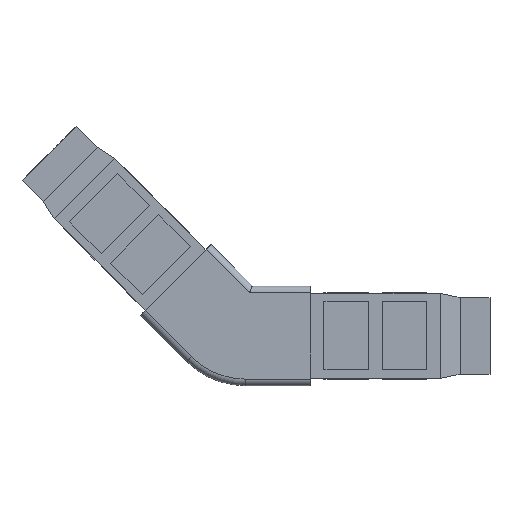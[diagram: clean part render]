
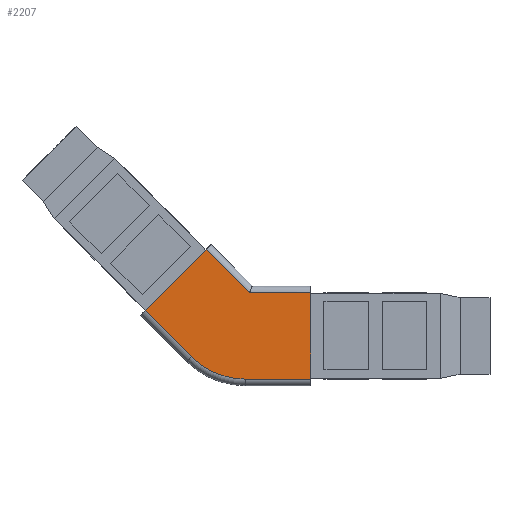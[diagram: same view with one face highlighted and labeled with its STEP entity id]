
A CAD part, left-side view. The second image highlights one B-rep face of the part: STEP entity #2207.
In plain terms, the highlighted planar face has unit normal (-1, 0, 0).
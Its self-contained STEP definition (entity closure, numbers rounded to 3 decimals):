
#23 = AXIS2_PLACEMENT_3D ( 'NONE', #171, #2352, #474 ) ;
#90 = DIRECTION ( 'NONE',  ( 0., -0.707, -0.707 ) ) ;
#171 = CARTESIAN_POINT ( 'NONE',  ( -15., 4.645, 10. ) ) ;
#179 = CARTESIAN_POINT ( 'NONE',  ( -15., 20.908, -6.263 ) ) ;
#198 = ORIENTED_EDGE ( 'NONE', *, *, #3047, .T. ) ;
#268 = VERTEX_POINT ( 'NONE', #1867 ) ;
#350 = CARTESIAN_POINT ( 'NONE',  ( -15., -15., -13. ) ) ;
#474 = DIRECTION ( 'NONE',  ( 0., 1., 0. ) ) ;
#515 = VECTOR ( 'NONE', #2807, 1000. ) ;
#564 = EDGE_CURVE ( 'NONE', #2044, #2690, #2041, .T. ) ;
#608 = DIRECTION ( 'NONE',  ( 0., 1., 0. ) ) ;
#642 = ORIENTED_EDGE ( 'NONE', *, *, #2029, .T. ) ;
#650 = VECTOR ( 'NONE', #1686, 1000. ) ;
#663 = DIRECTION ( 'NONE',  ( 0., -1., 0. ) ) ;
#833 = LINE ( 'NONE', #1315, #2396 ) ;
#834 = ORIENTED_EDGE ( 'NONE', *, *, #2703, .T. ) ;
#913 = PLANE ( 'NONE',  #3768 ) ;
#934 = VERTEX_POINT ( 'NONE', #1069 ) ;
#966 = CARTESIAN_POINT ( 'NONE',  ( -15., -15., 13. ) ) ;
#1014 = LINE ( 'NONE', #1102, #1754 ) ;
#1065 = CIRCLE ( 'NONE', #23, 23. ) ;
#1069 = CARTESIAN_POINT ( 'NONE',  ( -15., 4.645, -13. ) ) ;
#1102 = CARTESIAN_POINT ( 'NONE',  ( -15., 36.213, 6.213 ) ) ;
#1286 = FACE_OUTER_BOUND ( 'NONE', #3629, .T. ) ;
#1315 = CARTESIAN_POINT ( 'NONE',  ( -15., 20.908, -6.263 ) ) ;
#1333 = LINE ( 'NONE', #350, #2815 ) ;
#1363 = CARTESIAN_POINT ( 'NONE',  ( -15., 16.414, 26.012 ) ) ;
#1439 = LINE ( 'NONE', #2489, #515 ) ;
#1444 = ORIENTED_EDGE ( 'NONE', *, *, #564, .F. ) ;
#1539 = CARTESIAN_POINT ( 'NONE',  ( -15., 15., 15. ) ) ;
#1654 = DIRECTION ( 'NONE',  ( 0., 0., -1. ) ) ;
#1666 = CARTESIAN_POINT ( 'NONE',  ( -15., -15., 15. ) ) ;
#1686 = DIRECTION ( 'NONE',  ( 0., 0.707, 0.707 ) ) ;
#1754 = VECTOR ( 'NONE', #3578, 1000. ) ;
#1867 = CARTESIAN_POINT ( 'NONE',  ( -15., 16.414, 26.012 ) ) ;
#2004 = EDGE_CURVE ( 'NONE', #2044, #2978, #1439, .T. ) ;
#2029 = EDGE_CURVE ( 'NONE', #934, #2690, #1333, .T. ) ;
#2041 = LINE ( 'NONE', #1666, #3573 ) ;
#2044 = VERTEX_POINT ( 'NONE', #966 ) ;
#2207 = ADVANCED_FACE ( 'NONE', ( #1286 ), #913, .F. ) ;
#2300 = ORIENTED_EDGE ( 'NONE', *, *, #3715, .T. ) ;
#2312 = LINE ( 'NONE', #1363, #650 ) ;
#2352 = DIRECTION ( 'NONE',  ( -1., 0., 0. ) ) ;
#2396 = VECTOR ( 'NONE', #90, 1000. ) ;
#2478 = DIRECTION ( 'NONE',  ( 1., 0., 0. ) ) ;
#2489 = CARTESIAN_POINT ( 'NONE',  ( -15., 15., 13. ) ) ;
#2690 = VERTEX_POINT ( 'NONE', #3177 ) ;
#2703 = EDGE_CURVE ( 'NONE', #3444, #3825, #833, .T. ) ;
#2807 = DIRECTION ( 'NONE',  ( 0., 1., 0. ) ) ;
#2815 = VECTOR ( 'NONE', #663, 1000. ) ;
#2832 = EDGE_CURVE ( 'NONE', #3825, #934, #1065, .T. ) ;
#2978 = VERTEX_POINT ( 'NONE', #3837 ) ;
#3047 = EDGE_CURVE ( 'NONE', #268, #3444, #1014, .T. ) ;
#3177 = CARTESIAN_POINT ( 'NONE',  ( -15., -15., -13. ) ) ;
#3385 = ORIENTED_EDGE ( 'NONE', *, *, #2004, .T. ) ;
#3444 = VERTEX_POINT ( 'NONE', #3600 ) ;
#3573 = VECTOR ( 'NONE', #1654, 1000. ) ;
#3578 = DIRECTION ( 'NONE',  ( 0., 0.707, -0.707 ) ) ;
#3600 = CARTESIAN_POINT ( 'NONE',  ( -15., 34.799, 7.627 ) ) ;
#3629 = EDGE_LOOP ( 'NONE', ( #1444, #3385, #2300, #198, #834, #3798, #642 ) ) ;
#3715 = EDGE_CURVE ( 'NONE', #2978, #268, #2312, .T. ) ;
#3768 = AXIS2_PLACEMENT_3D ( 'NONE', #1539, #2478, #608 ) ;
#3798 = ORIENTED_EDGE ( 'NONE', *, *, #2832, .T. ) ;
#3825 = VERTEX_POINT ( 'NONE', #179 ) ;
#3837 = CARTESIAN_POINT ( 'NONE',  ( -15., 3.402, 13. ) ) ;
